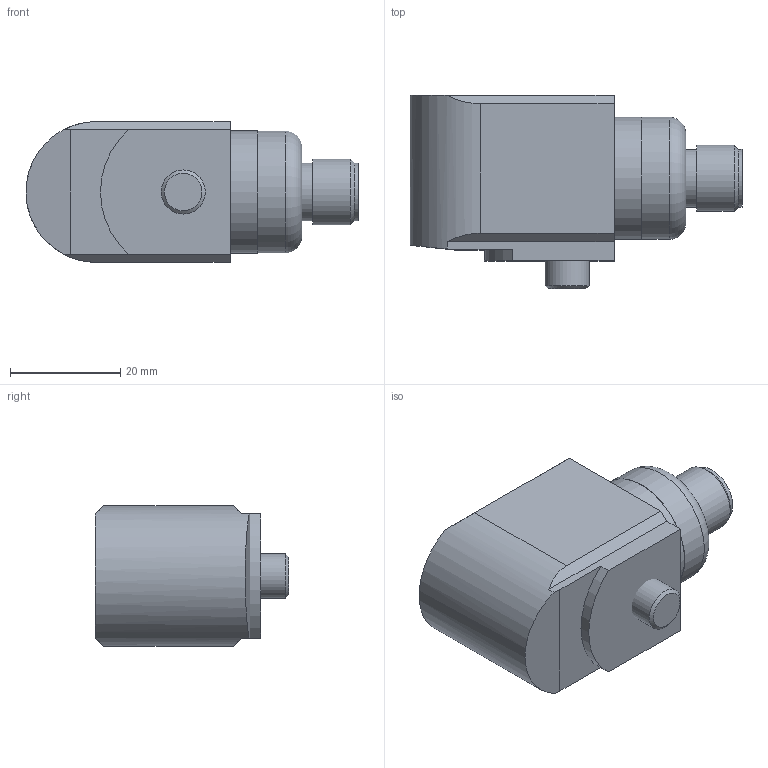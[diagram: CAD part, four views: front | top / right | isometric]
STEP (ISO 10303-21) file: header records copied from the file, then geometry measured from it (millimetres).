
FILE_DESCRIPTION(/* description */ (''),/* implementation_level */ '2;1');
FILE_NAME(/* name */ 'Z:\Engineering\Drawings\3D Library\Assemblies\Website\420 Velocity Side\HS-420SXXX5408.stp',/* time_stamp */ '2023-05-03T21:06:46+01:00',/* author */ ('Ricardo.Peneda'),/* organization */ (''),/* preprocessor_version */ 'ST-DEVELOPER v18.1',/* originating_system */ 'Autodesk Inventor 2021',/* authorisation */ '');
FILE_SCHEMA (('AUTOMOTIVE_DESIGN { 1 0 10303 214 3 1 1 }'));
Length unit declared in the file: inch
Products named in the file (1): HS-420SXXX5408_Shrinkwrap_1
Bounding box: 60.19 x 35 x 25.5 mm (x, y, z)
Volume: 21288.6 mm3; surface area: 12029.6 mm2
Topology: 4 solids, 4 shells, 61 faces, 147 edges, 109 vertices
Faces by surface type: plane 34, cylinder 22, cone 4, torus 1
Full cylindrical faces by diameter (mm): 6.4 x1, 6.647 x1, 8 x1, 9.4 x2, 10.496 x1, 10.5 x1, 11 x1, 11.2 x1, 12 x1, 15 x1, 18 x2, 19.95 x1, 20 x2, 20.4 x2, 22.2 x2
Entity records: 1991 total; most frequent: DIRECTION 363, CARTESIAN_POINT 318, ORIENTED_EDGE 294, AXIS2_PLACEMENT_3D 154, EDGE_CURVE 147, VERTEX_POINT 109, CIRCLE 87, EDGE_LOOP 78
